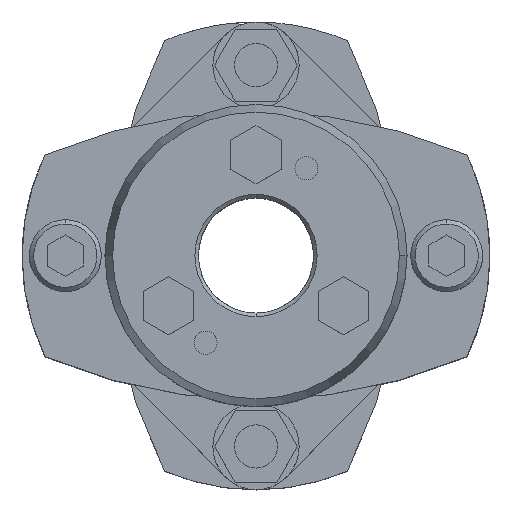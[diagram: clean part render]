
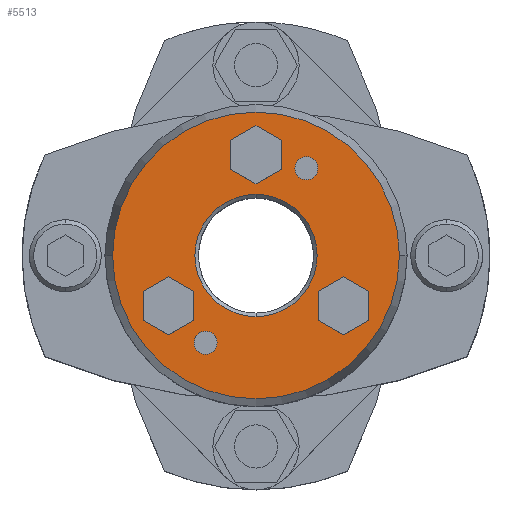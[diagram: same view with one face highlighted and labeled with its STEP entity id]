
A CAD part, top view. The second image highlights one B-rep face of the part: STEP entity #5513.
In plain terms, the highlighted planar face has unit normal (0, 0, 1).
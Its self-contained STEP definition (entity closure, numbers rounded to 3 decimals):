
#1783=CARTESIAN_POINT('',(-19.928,0.,40.0));
#1784=VERTEX_POINT('',#1783);
#1791=CARTESIAN_POINT('',(19.928,0.,40.0));
#1792=VERTEX_POINT('',#1791);
#1793=CARTESIAN_POINT('',(0.,0.,40.0));
#1794=DIRECTION('',(0.0,0.0,-1.0));
#1795=DIRECTION('',(-1.0,0.0,0.0));
#1796=AXIS2_PLACEMENT_3D('',#1793,#1794,#1795);
#1797=CIRCLE('',#1796,19.928);
#1798=EDGE_CURVE('',#1784,#1792,#1797,.T.);
#1893=CARTESIAN_POINT('',(0.,8.5,40.0));
#1894=VERTEX_POINT('',#1893);
#1910=CARTESIAN_POINT('',(0.,-8.5,40.0));
#1911=VERTEX_POINT('',#1910);
#1918=CARTESIAN_POINT('',(0.,0.,40.0));
#1919=DIRECTION('',(0.0,0.0,1.0));
#1920=DIRECTION('',(0.0,1.0,0.0));
#1921=AXIS2_PLACEMENT_3D('',#1918,#1919,#1920);
#1922=CIRCLE('',#1921,8.5);
#1923=EDGE_CURVE('',#1911,#1894,#1922,.T.);
#2041=CARTESIAN_POINT('',(7.,13.724,40.0));
#2042=VERTEX_POINT('',#2041);
#2058=CARTESIAN_POINT('',(7.,10.524,40.0));
#2059=VERTEX_POINT('',#2058);
#2066=CARTESIAN_POINT('',(7.,12.124,40.0));
#2067=DIRECTION('',(0.0,0.0,-1.0));
#2068=DIRECTION('',(0.0,1.0,0.0));
#2069=AXIS2_PLACEMENT_3D('',#2066,#2067,#2068);
#2070=CIRCLE('',#2069,1.6);
#2071=EDGE_CURVE('',#2042,#2059,#2070,.T.);
#2083=CARTESIAN_POINT('',(-7.,-10.524,40.0));
#2084=VERTEX_POINT('',#2083);
#2100=CARTESIAN_POINT('',(-7.,-13.724,40.0));
#2101=VERTEX_POINT('',#2100);
#2108=CARTESIAN_POINT('',(-7.,-12.124,40.0));
#2109=DIRECTION('',(0.0,0.0,-1.0));
#2110=DIRECTION('',(0.0,1.0,0.0));
#2111=AXIS2_PLACEMENT_3D('',#2108,#2109,#2110);
#2112=CIRCLE('',#2111,1.6);
#2113=EDGE_CURVE('',#2084,#2101,#2112,.T.);
#4716=CARTESIAN_POINT('',(-7.,-12.124,40.0));
#4717=DIRECTION('',(0.0,0.0,-1.0));
#4718=DIRECTION('',(0.0,1.0,0.0));
#4719=AXIS2_PLACEMENT_3D('',#4716,#4717,#4718);
#4720=CIRCLE('',#4719,1.6);
#4721=EDGE_CURVE('',#2101,#2084,#4720,.T.);
#4750=CARTESIAN_POINT('',(7.,12.124,40.0));
#4751=DIRECTION('',(0.0,0.0,-1.0));
#4752=DIRECTION('',(0.0,1.0,0.0));
#4753=AXIS2_PLACEMENT_3D('',#4750,#4751,#4752);
#4754=CIRCLE('',#4753,1.6);
#4755=EDGE_CURVE('',#2059,#2042,#4754,.T.);
#4793=CARTESIAN_POINT('',(0.,18.041,40.0));
#4794=VERTEX_POINT('',#4793);
#4801=CARTESIAN_POINT('',(-3.5,16.021,40.0));
#4802=VERTEX_POINT('',#4801);
#4803=CARTESIAN_POINT('',(-3.5,16.021,40.0));
#4804=DIRECTION('',(0.866,0.5,0.0));
#4805=VECTOR('',#4804,4.041);
#4806=LINE('',#4803,#4805);
#4807=EDGE_CURVE('',#4802,#4794,#4806,.T.);
#4831=CARTESIAN_POINT('',(3.5,16.021,40.0));
#4832=VERTEX_POINT('',#4831);
#4839=CARTESIAN_POINT('',(0.,18.041,40.0));
#4840=DIRECTION('',(0.866,-0.5,0.0));
#4841=VECTOR('',#4840,4.041);
#4842=LINE('',#4839,#4841);
#4843=EDGE_CURVE('',#4794,#4832,#4842,.T.);
#4862=CARTESIAN_POINT('',(3.5,11.979,40.0));
#4863=VERTEX_POINT('',#4862);
#4870=CARTESIAN_POINT('',(3.5,16.021,40.0));
#4871=DIRECTION('',(0.0,-1.0,0.0));
#4872=VECTOR('',#4871,4.041);
#4873=LINE('',#4870,#4872);
#4874=EDGE_CURVE('',#4832,#4863,#4873,.T.);
#4893=CARTESIAN_POINT('',(0.,9.959,40.0));
#4894=VERTEX_POINT('',#4893);
#4901=CARTESIAN_POINT('',(3.5,11.979,40.0));
#4902=DIRECTION('',(-0.866,-0.5,0.0));
#4903=VECTOR('',#4902,4.041);
#4904=LINE('',#4901,#4903);
#4905=EDGE_CURVE('',#4863,#4894,#4904,.T.);
#4924=CARTESIAN_POINT('',(-3.5,11.979,40.0));
#4925=VERTEX_POINT('',#4924);
#4932=CARTESIAN_POINT('',(0.,9.959,40.0));
#4933=DIRECTION('',(-0.866,0.5,0.0));
#4934=VECTOR('',#4933,4.041);
#4935=LINE('',#4932,#4934);
#4936=EDGE_CURVE('',#4894,#4925,#4935,.T.);
#4954=CARTESIAN_POINT('',(-3.5,11.979,40.0));
#4955=DIRECTION('',(0.0,1.0,0.0));
#4956=VECTOR('',#4955,4.041);
#4957=LINE('',#4954,#4956);
#4958=EDGE_CURVE('',#4925,#4802,#4957,.T.);
#4993=CARTESIAN_POINT('',(-12.124,-2.959,40.0));
#4994=VERTEX_POINT('',#4993);
#5001=CARTESIAN_POINT('',(-15.624,-4.979,40.0));
#5002=VERTEX_POINT('',#5001);
#5003=CARTESIAN_POINT('',(-15.624,-4.979,40.0));
#5004=DIRECTION('',(0.866,0.5,0.0));
#5005=VECTOR('',#5004,4.041);
#5006=LINE('',#5003,#5005);
#5007=EDGE_CURVE('',#5002,#4994,#5006,.T.);
#5031=CARTESIAN_POINT('',(-8.624,-4.979,40.0));
#5032=VERTEX_POINT('',#5031);
#5039=CARTESIAN_POINT('',(-12.124,-2.959,40.0));
#5040=DIRECTION('',(0.866,-0.5,0.0));
#5041=VECTOR('',#5040,4.041);
#5042=LINE('',#5039,#5041);
#5043=EDGE_CURVE('',#4994,#5032,#5042,.T.);
#5062=CARTESIAN_POINT('',(-8.624,-9.021,40.0));
#5063=VERTEX_POINT('',#5062);
#5070=CARTESIAN_POINT('',(-8.624,-4.979,40.0));
#5071=DIRECTION('',(0.0,-1.0,0.0));
#5072=VECTOR('',#5071,4.041);
#5073=LINE('',#5070,#5072);
#5074=EDGE_CURVE('',#5032,#5063,#5073,.T.);
#5093=CARTESIAN_POINT('',(-12.124,-11.041,40.0));
#5094=VERTEX_POINT('',#5093);
#5101=CARTESIAN_POINT('',(-8.624,-9.021,40.0));
#5102=DIRECTION('',(-0.866,-0.5,0.0));
#5103=VECTOR('',#5102,4.041);
#5104=LINE('',#5101,#5103);
#5105=EDGE_CURVE('',#5063,#5094,#5104,.T.);
#5124=CARTESIAN_POINT('',(-15.624,-9.021,40.0));
#5125=VERTEX_POINT('',#5124);
#5132=CARTESIAN_POINT('',(-12.124,-11.041,40.0));
#5133=DIRECTION('',(-0.866,0.5,0.0));
#5134=VECTOR('',#5133,4.041);
#5135=LINE('',#5132,#5134);
#5136=EDGE_CURVE('',#5094,#5125,#5135,.T.);
#5154=CARTESIAN_POINT('',(-15.624,-9.021,40.0));
#5155=DIRECTION('',(0.0,1.0,0.0));
#5156=VECTOR('',#5155,4.041);
#5157=LINE('',#5154,#5156);
#5158=EDGE_CURVE('',#5125,#5002,#5157,.T.);
#5193=CARTESIAN_POINT('',(12.124,-2.959,40.0));
#5194=VERTEX_POINT('',#5193);
#5201=CARTESIAN_POINT('',(8.624,-4.979,40.0));
#5202=VERTEX_POINT('',#5201);
#5203=CARTESIAN_POINT('',(8.624,-4.979,40.0));
#5204=DIRECTION('',(0.866,0.5,0.0));
#5205=VECTOR('',#5204,4.041);
#5206=LINE('',#5203,#5205);
#5207=EDGE_CURVE('',#5202,#5194,#5206,.T.);
#5231=CARTESIAN_POINT('',(15.624,-4.979,40.0));
#5232=VERTEX_POINT('',#5231);
#5239=CARTESIAN_POINT('',(12.124,-2.959,40.0));
#5240=DIRECTION('',(0.866,-0.5,0.0));
#5241=VECTOR('',#5240,4.041);
#5242=LINE('',#5239,#5241);
#5243=EDGE_CURVE('',#5194,#5232,#5242,.T.);
#5262=CARTESIAN_POINT('',(15.624,-9.021,40.0));
#5263=VERTEX_POINT('',#5262);
#5270=CARTESIAN_POINT('',(15.624,-4.979,40.0));
#5271=DIRECTION('',(0.0,-1.0,0.0));
#5272=VECTOR('',#5271,4.041);
#5273=LINE('',#5270,#5272);
#5274=EDGE_CURVE('',#5232,#5263,#5273,.T.);
#5293=CARTESIAN_POINT('',(12.124,-11.041,40.0));
#5294=VERTEX_POINT('',#5293);
#5301=CARTESIAN_POINT('',(15.624,-9.021,40.0));
#5302=DIRECTION('',(-0.866,-0.5,0.0));
#5303=VECTOR('',#5302,4.041);
#5304=LINE('',#5301,#5303);
#5305=EDGE_CURVE('',#5263,#5294,#5304,.T.);
#5324=CARTESIAN_POINT('',(8.624,-9.021,40.0));
#5325=VERTEX_POINT('',#5324);
#5332=CARTESIAN_POINT('',(12.124,-11.041,40.0));
#5333=DIRECTION('',(-0.866,0.5,0.0));
#5334=VECTOR('',#5333,4.041);
#5335=LINE('',#5332,#5334);
#5336=EDGE_CURVE('',#5294,#5325,#5335,.T.);
#5354=CARTESIAN_POINT('',(8.624,-9.021,40.0));
#5355=DIRECTION('',(0.0,1.0,0.0));
#5356=VECTOR('',#5355,4.041);
#5357=LINE('',#5354,#5356);
#5358=EDGE_CURVE('',#5325,#5202,#5357,.T.);
#5450=CARTESIAN_POINT('',(0.,0.,40.0));
#5451=DIRECTION('',(0.0,0.0,1.0));
#5452=DIRECTION('',(0.0,1.0,0.0));
#5453=AXIS2_PLACEMENT_3D('',#5450,#5451,#5452);
#5454=CIRCLE('',#5453,8.5);
#5455=EDGE_CURVE('',#1894,#1911,#5454,.T.);
#5462=CARTESIAN_POINT('',(-9.964,0.,40.0));
#5463=DIRECTION('',(0.0,0.0,1.0));
#5464=DIRECTION('',(0.0,1.0,0.0));
#5465=AXIS2_PLACEMENT_3D('',#5462,#5463,#5464);
#5466=PLANE('',#5465);
#5467=ORIENTED_EDGE('',*,*,#1798,.F.);
#5468=CARTESIAN_POINT('',(0.,0.,40.0));
#5469=DIRECTION('',(0.0,0.0,-1.0));
#5470=DIRECTION('',(-1.0,0.0,0.0));
#5471=AXIS2_PLACEMENT_3D('',#5468,#5469,#5470);
#5472=CIRCLE('',#5471,19.928);
#5473=EDGE_CURVE('',#1792,#1784,#5472,.T.);
#5474=ORIENTED_EDGE('',*,*,#5473,.F.);
#5475=EDGE_LOOP('',(#5467,#5474));
#5476=FACE_OUTER_BOUND('',#5475,.T.);
#5477=ORIENTED_EDGE('',*,*,#2113,.T.);
#5478=ORIENTED_EDGE('',*,*,#4721,.T.);
#5479=EDGE_LOOP('',(#5477,#5478));
#5480=FACE_BOUND('',#5479,.T.);
#5481=ORIENTED_EDGE('',*,*,#2071,.T.);
#5482=ORIENTED_EDGE('',*,*,#4755,.T.);
#5483=EDGE_LOOP('',(#5481,#5482));
#5484=FACE_BOUND('',#5483,.T.);
#5485=ORIENTED_EDGE('',*,*,#4807,.T.);
#5486=ORIENTED_EDGE('',*,*,#4843,.T.);
#5487=ORIENTED_EDGE('',*,*,#4874,.T.);
#5488=ORIENTED_EDGE('',*,*,#4905,.T.);
#5489=ORIENTED_EDGE('',*,*,#4936,.T.);
#5490=ORIENTED_EDGE('',*,*,#4958,.T.);
#5491=EDGE_LOOP('',(#5485,#5486,#5487,#5488,#5489,#5490));
#5492=FACE_BOUND('',#5491,.T.);
#5493=ORIENTED_EDGE('',*,*,#5007,.T.);
#5494=ORIENTED_EDGE('',*,*,#5043,.T.);
#5495=ORIENTED_EDGE('',*,*,#5074,.T.);
#5496=ORIENTED_EDGE('',*,*,#5105,.T.);
#5497=ORIENTED_EDGE('',*,*,#5136,.T.);
#5498=ORIENTED_EDGE('',*,*,#5158,.T.);
#5499=EDGE_LOOP('',(#5493,#5494,#5495,#5496,#5497,#5498));
#5500=FACE_BOUND('',#5499,.T.);
#5501=ORIENTED_EDGE('',*,*,#5207,.T.);
#5502=ORIENTED_EDGE('',*,*,#5243,.T.);
#5503=ORIENTED_EDGE('',*,*,#5274,.T.);
#5504=ORIENTED_EDGE('',*,*,#5305,.T.);
#5505=ORIENTED_EDGE('',*,*,#5336,.T.);
#5506=ORIENTED_EDGE('',*,*,#5358,.T.);
#5507=EDGE_LOOP('',(#5501,#5502,#5503,#5504,#5505,#5506));
#5508=FACE_BOUND('',#5507,.T.);
#5509=ORIENTED_EDGE('',*,*,#1923,.F.);
#5510=ORIENTED_EDGE('',*,*,#5455,.F.);
#5511=EDGE_LOOP('',(#5509,#5510));
#5512=FACE_BOUND('',#5511,.T.);
#5513=ADVANCED_FACE('',(#5476,#5480,#5484,#5492,#5500,#5508,#5512),#5466,.T.);
